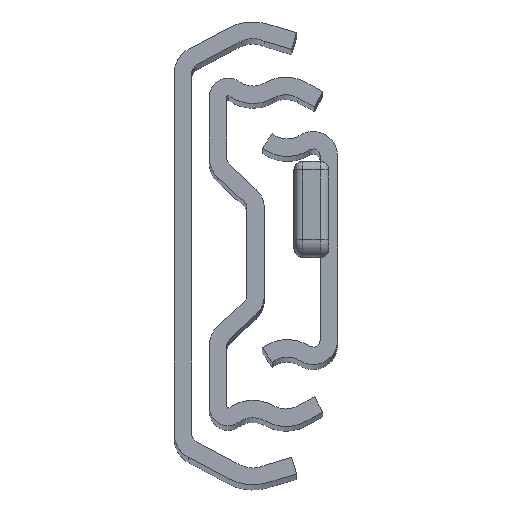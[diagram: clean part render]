
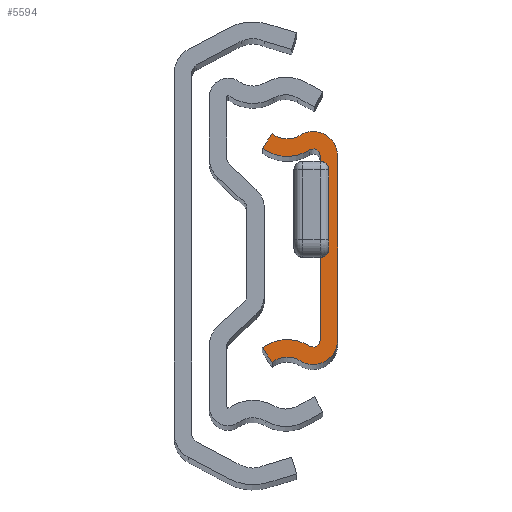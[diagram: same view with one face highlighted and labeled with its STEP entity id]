
A CAD part, top view. The second image highlights one B-rep face of the part: STEP entity #5594.
In plain terms, the highlighted planar face has unit normal (0, 0, 1).
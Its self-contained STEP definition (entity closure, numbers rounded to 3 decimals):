
#114 = CIRCLE ( 'NONE', #12355, 2.8 ) ;
#284 = CIRCLE ( 'NONE', #14949, 4.8 ) ;
#617 = CARTESIAN_POINT ( 'NONE',  ( 0.018, 12.922, 0. ) ) ;
#760 = CARTESIAN_POINT ( 'NONE',  ( 4.306, -10.55, 0. ) ) ;
#1054 = ORIENTED_EDGE ( 'NONE', *, *, #17226, .T. ) ;
#1060 = ORIENTED_EDGE ( 'NONE', *, *, #29446, .T. ) ;
#1111 = CARTESIAN_POINT ( 'NONE',  ( 4.306, 10.55, 0. ) ) ;
#1904 = LINE ( 'NONE', #6182, #5608 ) ;
#2151 = EDGE_CURVE ( 'NONE', #18246, #5745, #5670, .T. ) ;
#2459 = ORIENTED_EDGE ( 'NONE', *, *, #13465, .T. ) ;
#2680 = LINE ( 'NONE', #26810, #11155 ) ;
#2970 = EDGE_CURVE ( 'NONE', #23004, #3797, #5254, .T. ) ;
#3043 = LINE ( 'NONE', #16936, #19301 ) ;
#3797 = VERTEX_POINT ( 'NONE', #22788 ) ;
#3874 = ORIENTED_EDGE ( 'NONE', *, *, #15128, .T. ) ;
#4589 = ORIENTED_EDGE ( 'NONE', *, *, #2970, .T. ) ;
#5139 = DIRECTION ( 'NONE',  ( 0., 0., -1. ) ) ;
#5245 = CARTESIAN_POINT ( 'NONE',  ( 1.506, -10.55, 0. ) ) ;
#5254 = CIRCLE ( 'NONE', #16557, 0.8 ) ;
#5334 = DIRECTION ( 'NONE',  ( -1., 0., 0. ) ) ;
#5516 = ORIENTED_EDGE ( 'NONE', *, *, #8331, .T. ) ;
#5594 = ADVANCED_FACE ( 'Face2', ( #18755 ), #13493, .T. ) ;
#5600 = CARTESIAN_POINT ( 'NONE',  ( 1.506, 10.55, 0. ) ) ;
#5608 = VECTOR ( 'NONE', #8564, 1000. ) ;
#5670 = CIRCLE ( 'NONE', #25219, 2.8 ) ;
#5745 = VERTEX_POINT ( 'NONE', #16569 ) ;
#6182 = CARTESIAN_POINT ( 'NONE',  ( -4.306, 11.422, 0. ) ) ;
#6388 = CARTESIAN_POINT ( 'NONE',  ( 2.306, -10.55, 0. ) ) ;
#8080 = DIRECTION ( 'NONE',  ( -1., 0., 0. ) ) ;
#8148 = DIRECTION ( 'NONE',  ( 0., -1., 0. ) ) ;
#8331 = EDGE_CURVE ( 'NONE', #17663, #27967, #28522, .T. ) ;
#8564 = DIRECTION ( 'NONE',  ( -0.555, -0.832, 0. ) ) ;
#8820 = EDGE_CURVE ( 'NONE', #8878, #19032, #284, .T. ) ;
#8878 = VERTEX_POINT ( 'NONE', #21077 ) ;
#9761 = DIRECTION ( 'NONE',  ( 1., 0., 0. ) ) ;
#10133 = DIRECTION ( 'NONE',  ( 0.555, -0.832, 0. ) ) ;
#10471 = DIRECTION ( 'NONE',  ( 0., 0., 1. ) ) ;
#11155 = VECTOR ( 'NONE', #8148, 1000. ) ;
#11949 = EDGE_CURVE ( 'NONE', #16547, #17607, #14184, .T. ) ;
#12229 = CARTESIAN_POINT ( 'NONE',  ( -1.47, -15.294, 0. ) ) ;
#12355 = AXIS2_PLACEMENT_3D ( 'NONE', #23462, #30296, #23073 ) ;
#13284 = EDGE_CURVE ( 'NONE', #16053, #23004, #2680, .T. ) ;
#13408 = VECTOR ( 'NONE', #25815, 1000. ) ;
#13450 = DIRECTION ( 'NONE',  ( 0., 0., 1. ) ) ;
#13458 = ORIENTED_EDGE ( 'NONE', *, *, #11949, .T. ) ;
#13465 = EDGE_CURVE ( 'NONE', #5745, #8878, #1904, .T. ) ;
#13493 = PLANE ( 'NONE',  #24794 ) ;
#14184 = CIRCLE ( 'NONE', #14399, 2.8 ) ;
#14399 = AXIS2_PLACEMENT_3D ( 'NONE', #12229, #19063, #9761 ) ;
#14949 = AXIS2_PLACEMENT_3D ( 'NONE', #18369, #23015, #22912 ) ;
#15025 = DIRECTION ( 'NONE',  ( -1., 0., 0. ) ) ;
#15111 = CIRCLE ( 'NONE', #20189, 4.8 ) ;
#15128 = EDGE_CURVE ( 'NONE', #3797, #23138, #15111, .T. ) ;
#16053 = VERTEX_POINT ( 'NONE', #28402 ) ;
#16547 = VERTEX_POINT ( 'NONE', #23508 ) ;
#16557 = AXIS2_PLACEMENT_3D ( 'NONE', #5245, #5139, #19482 ) ;
#16569 = CARTESIAN_POINT ( 'NONE',  ( -3.194, 13.089, 0. ) ) ;
#16936 = CARTESIAN_POINT ( 'NONE',  ( -4.306, -11.422, 0. ) ) ;
#17226 = EDGE_CURVE ( 'NONE', #27967, #18246, #29024, .T. ) ;
#17607 = VERTEX_POINT ( 'NONE', #24072 ) ;
#17663 = VERTEX_POINT ( 'NONE', #760 ) ;
#18078 = CIRCLE ( 'NONE', #25765, 0.8 ) ;
#18083 = DIRECTION ( 'NONE',  ( 1., 0., 0. ) ) ;
#18232 = DIRECTION ( 'NONE',  ( 1., 0., 0. ) ) ;
#18246 = VERTEX_POINT ( 'NONE', #617 ) ;
#18369 = CARTESIAN_POINT ( 'NONE',  ( -1.47, 15.294, 0. ) ) ;
#18599 = ORIENTED_EDGE ( 'NONE', *, *, #26905, .T. ) ;
#18755 = FACE_OUTER_BOUND ( 'NONE', #19551, .T. ) ;
#19032 = VERTEX_POINT ( 'NONE', #19876 ) ;
#19063 = DIRECTION ( 'NONE',  ( 0., 0., -1. ) ) ;
#19301 = VECTOR ( 'NONE', #10133, 1000. ) ;
#19458 = DIRECTION ( 'NONE',  ( 0., 0., -1. ) ) ;
#19482 = DIRECTION ( 'NONE',  ( 1., 0., 0. ) ) ;
#19551 = EDGE_LOOP ( 'NONE', ( #13458, #22051, #5516, #1054, #20325, #2459, #20819, #1060, #23056, #4589, #3874, #18599 ) ) ;
#19876 = CARTESIAN_POINT ( 'NONE',  ( 1.081, 11.228, 0. ) ) ;
#20189 = AXIS2_PLACEMENT_3D ( 'NONE', #29869, #13450, #18083 ) ;
#20325 = ORIENTED_EDGE ( 'NONE', *, *, #2151, .T. ) ;
#20819 = ORIENTED_EDGE ( 'NONE', *, *, #8820, .T. ) ;
#21077 = CARTESIAN_POINT ( 'NONE',  ( -4.306, 11.422, 0. ) ) ;
#21244 = CARTESIAN_POINT ( 'NONE',  ( -4.306, -11.422, 0. ) ) ;
#22051 = ORIENTED_EDGE ( 'NONE', *, *, #30254, .T. ) ;
#22260 = CARTESIAN_POINT ( 'NONE',  ( 1.506, 10.55, 0. ) ) ;
#22788 = CARTESIAN_POINT ( 'NONE',  ( 1.081, -11.228, 0. ) ) ;
#22912 = DIRECTION ( 'NONE',  ( -1., 0., 0. ) ) ;
#23004 = VERTEX_POINT ( 'NONE', #6388 ) ;
#23015 = DIRECTION ( 'NONE',  ( 0., 0., 1. ) ) ;
#23056 = ORIENTED_EDGE ( 'NONE', *, *, #13284, .T. ) ;
#23073 = DIRECTION ( 'NONE',  ( 1., 0., 0. ) ) ;
#23138 = VERTEX_POINT ( 'NONE', #21244 ) ;
#23462 = CARTESIAN_POINT ( 'NONE',  ( 1.506, -10.55, 0. ) ) ;
#23508 = CARTESIAN_POINT ( 'NONE',  ( -3.194, -13.089, 0. ) ) ;
#24072 = CARTESIAN_POINT ( 'NONE',  ( 0.018, -12.922, 0. ) ) ;
#24794 = AXIS2_PLACEMENT_3D ( 'NONE', #30012, #25335, #18232 ) ;
#25219 = AXIS2_PLACEMENT_3D ( 'NONE', #26768, #19458, #5334 ) ;
#25335 = DIRECTION ( 'NONE',  ( 0., 0., 1. ) ) ;
#25765 = AXIS2_PLACEMENT_3D ( 'NONE', #5600, #29214, #8080 ) ;
#25815 = DIRECTION ( 'NONE',  ( 0., 1., 0. ) ) ;
#26768 = CARTESIAN_POINT ( 'NONE',  ( -1.47, 15.294, 0. ) ) ;
#26810 = CARTESIAN_POINT ( 'NONE',  ( 2.306, -10.55, 0. ) ) ;
#26905 = EDGE_CURVE ( 'NONE', #23138, #16547, #3043, .T. ) ;
#27967 = VERTEX_POINT ( 'NONE', #1111 ) ;
#28093 = CARTESIAN_POINT ( 'NONE',  ( 4.306, -10.55, 0. ) ) ;
#28402 = CARTESIAN_POINT ( 'NONE',  ( 2.306, 10.55, 0. ) ) ;
#28522 = LINE ( 'NONE', #28093, #13408 ) ;
#28888 = AXIS2_PLACEMENT_3D ( 'NONE', #22260, #10471, #15025 ) ;
#29024 = CIRCLE ( 'NONE', #28888, 2.8 ) ;
#29214 = DIRECTION ( 'NONE',  ( 0., 0., -1. ) ) ;
#29446 = EDGE_CURVE ( 'NONE', #19032, #16053, #18078, .T. ) ;
#29869 = CARTESIAN_POINT ( 'NONE',  ( -1.47, -15.294, 0. ) ) ;
#30012 = CARTESIAN_POINT ( 'NONE',  ( -1.47, -15.294, 0. ) ) ;
#30254 = EDGE_CURVE ( 'NONE', #17607, #17663, #114, .T. ) ;
#30296 = DIRECTION ( 'NONE',  ( 0., 0., 1. ) ) ;
